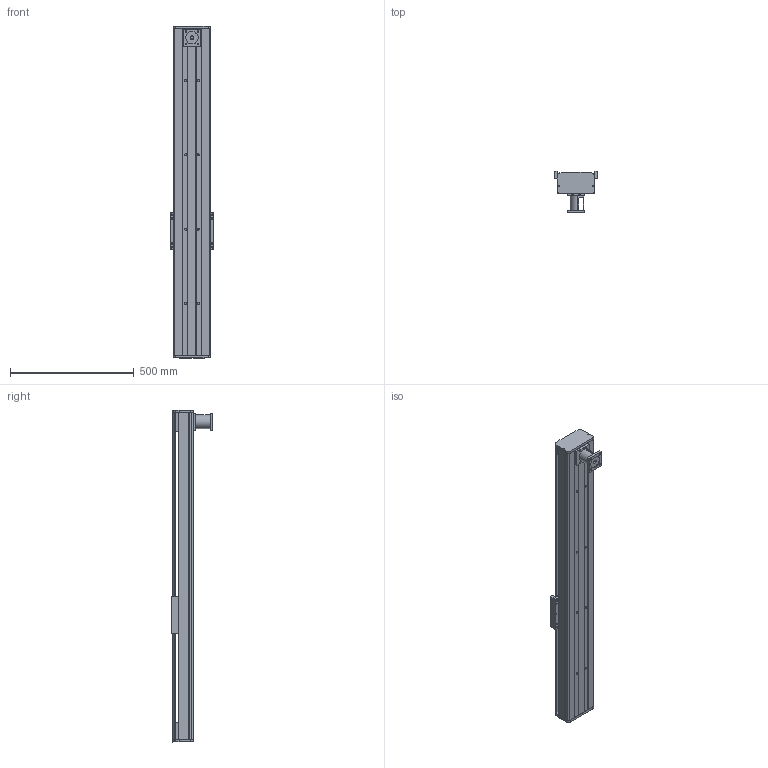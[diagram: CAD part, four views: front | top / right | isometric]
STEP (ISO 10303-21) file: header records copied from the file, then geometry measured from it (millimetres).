
FILE_DESCRIPTION (( 'STEP AP214' ), '1' );
FILE_NAME ('CF150-D-FWD.STEP', '2016-07-16T01:12:56', ( 'Sky123.Org' ), ( 'Sky123.Org' ), 'SwSTEP 2.0', 'SolidWorks 2015', '' );
FILE_SCHEMA (( 'AUTOMOTIVE_DESIGN' ));
Length unit declared in the file: millimetre
Products named in the file (15): HGR15絳寢; CF150翋雄釱; CF150植雄釱; 150臏倰第; CF150-D-FWD; 150賑輸; hGH15CA賑輸; 150耜啣; CF150裔啣; 萇儂蟀諉ん; 肮祭謫5m21喘詢25-27; 10-30肮祭謫; deep groove ball bearings gb_Rolling bearings 16001 GB 276-94; 翋雄粣; CF150植雄粣
Assembly tree (20 placements, depth 2):
  CF150-D-FWD
    150臏倰第
    CF150植雄釱
    CF150翋雄釱
    HGR15絳寢  x2
    CF150植雄粣
    翋雄粣
    deep groove ball bearings gb_Rolling bearings 16001 GB 276-94  x2
    10-30肮祭謫
    肮祭謫5m21喘詢25-27
    萇儂蟀諉ん
    CF150裔啣
    150耜啣  x2
    hGH15CA賑輸  x4
    150賑輸
Bounding box: 175 x 168 x 1340 mm (x, y, z)
Volume: 6804432.4 mm3; surface area: 2038197.9 mm2
Topology: 20 solids, 20 shells, 1273 faces, 3894 edges, 2598 vertices
Faces by surface type: plane 609, cylinder 499, torus 106, sphere 56, bspline 3
Entity records: 36211 total; most frequent: CARTESIAN_POINT 11434, ORIENTED_EDGE 5034, DIRECTION 4950, EDGE_CURVE 2517, AXIS2_PLACEMENT_3D 1796, VERTEX_POINT 1675, LINE 1358, VECTOR 1358
